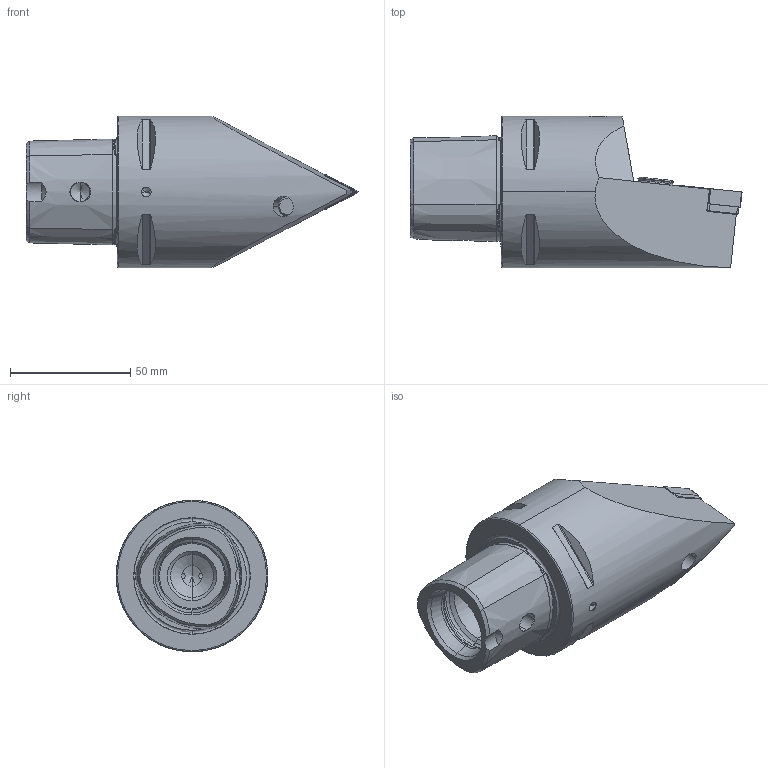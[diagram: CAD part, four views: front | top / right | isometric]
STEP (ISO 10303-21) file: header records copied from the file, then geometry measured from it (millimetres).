
FILE_DESCRIPTION (( 'STEP AP214' ), '1' );
FILE_NAME ('PS6.PDF.NNA.100-HP.STEP', '2020-09-16T07:47:33', ( '' ), ( '' ), 'SwSTEP 2.0', 'SolidWorks 2017', '' );
FILE_SCHEMA (( 'AUTOMOTIVE_DESIGN' ));
Length unit declared in the file: millimetre
Products named in the file (13): ISO 8752 2x8; DNMG150604; WCD-ER4.101.017_A; DIN 3771 - 13x1; CHP-ER1.015.006; DIN 7991 - M5x15; WDF-ER2.101.003_A; PS6-PDF.NNA.100-HP_B; PS6.PDF.NNA.100-HP; CHP-ER1.015.006_A; WCD-ER1.101.000; WDF-ER3.101.000_A; CHP-ER1.008.014_A
Assembly tree (12 placements, depth 3):
  PS6.PDF.NNA.100-HP
    PS6-PDF.NNA.100-HP_B
    DNMG150604
    WDF-ER3.101.000_A
    WCD-ER1.101.000
    WCD-ER4.101.017_A
    WDF-ER2.101.003_A
    ISO 8752 2x8
    CHP-ER1.015.006
      CHP-ER1.015.006_A
      DIN 3771 - 13x1
      DIN 7991 - M5x15
    CHP-ER1.008.014_A
Bounding box: 138 x 63 x 63 mm (x, y, z)
Volume: 217567.5 mm3; surface area: 37251.1 mm2
Topology: 11 solids, 11 shells, 435 faces, 1033 edges, 609 vertices
Faces by surface type: cone 134, plane 128, cylinder 110, torus 51, bspline 12
Entity records: 14230 total; most frequent: CARTESIAN_POINT 3796, DIRECTION 2096, ORIENTED_EDGE 2018, EDGE_CURVE 1009, AXIS2_PLACEMENT_3D 831, VERTEX_POINT 609, EDGE_LOOP 468, FACE_OUTER_BOUND 435
